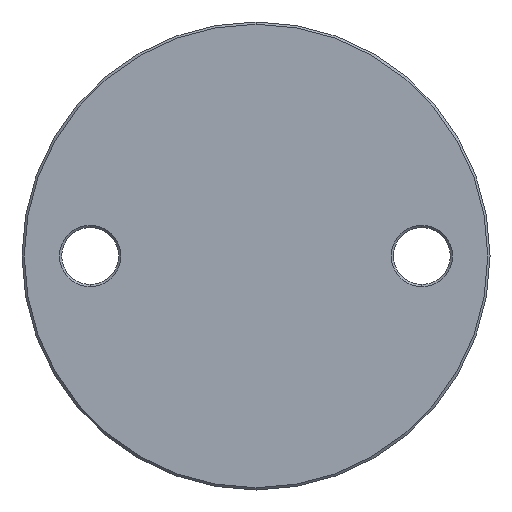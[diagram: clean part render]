
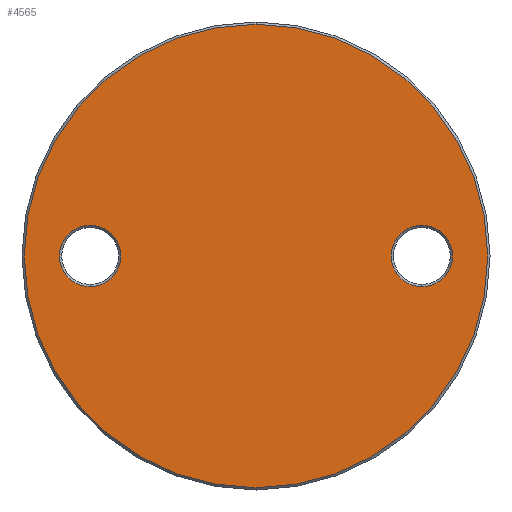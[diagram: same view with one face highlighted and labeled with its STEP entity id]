
A CAD part, front view. The second image highlights one B-rep face of the part: STEP entity #4565.
In plain terms, the highlighted planar face has unit normal (0, -1, 0).
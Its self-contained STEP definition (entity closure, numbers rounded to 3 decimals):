
#11 = ORIENTED_EDGE ( 'NONE', *, *, #5736, .T. ) ;
#99 = DIRECTION ( 'NONE',  ( 0., 1., 0. ) ) ;
#135 = CARTESIAN_POINT ( 'NONE',  ( 36.5, -3., 6.75 ) ) ;
#222 = AXIS2_PLACEMENT_3D ( 'NONE', #5063, #569, #1460 ) ;
#426 = ORIENTED_EDGE ( 'NONE', *, *, #2197, .T. ) ;
#525 = AXIS2_PLACEMENT_3D ( 'NONE', #3263, #1898, #5447 ) ;
#531 = CIRCLE ( 'NONE', #525, 51. ) ;
#569 = DIRECTION ( 'NONE',  ( 0., 1., 0. ) ) ;
#900 = FACE_OUTER_BOUND ( 'NONE', #3451, .T. ) ;
#995 = CARTESIAN_POINT ( 'NONE',  ( -36.5, -3., 6.75 ) ) ;
#1019 = CIRCLE ( 'NONE', #5498, 6.75 ) ;
#1136 = EDGE_LOOP ( 'NONE', ( #11, #2813 ) ) ;
#1186 = DIRECTION ( 'NONE',  ( 0., -1., 0. ) ) ;
#1208 = VERTEX_POINT ( 'NONE', #2894 ) ;
#1319 = CARTESIAN_POINT ( 'NONE',  ( -36.5, -3., -6.75 ) ) ;
#1350 = ORIENTED_EDGE ( 'NONE', *, *, #5835, .T. ) ;
#1460 = DIRECTION ( 'NONE',  ( 0., 0., -1. ) ) ;
#1482 = CARTESIAN_POINT ( 'NONE',  ( 36.5, -3., -6.75 ) ) ;
#1497 = VERTEX_POINT ( 'NONE', #4030 ) ;
#1597 = AXIS2_PLACEMENT_3D ( 'NONE', #2635, #3065, #4049 ) ;
#1733 = CARTESIAN_POINT ( 'NONE',  ( 36.5, -3., 0. ) ) ;
#1808 = PLANE ( 'NONE',  #1597 ) ;
#1827 = FACE_BOUND ( 'NONE', #5058, .T. ) ;
#1836 = EDGE_CURVE ( 'NONE', #1497, #1208, #5832, .T. ) ;
#1898 = DIRECTION ( 'NONE',  ( 0., -1., 0. ) ) ;
#1939 = CARTESIAN_POINT ( 'NONE',  ( -36.5, -3., 0. ) ) ;
#2012 = VERTEX_POINT ( 'NONE', #1319 ) ;
#2160 = DIRECTION ( 'NONE',  ( 0., 0., -1. ) ) ;
#2197 = EDGE_CURVE ( 'NONE', #1208, #1497, #531, .T. ) ;
#2255 = VERTEX_POINT ( 'NONE', #135 ) ;
#2342 = CARTESIAN_POINT ( 'NONE',  ( 36.5, -3., 0. ) ) ;
#2635 = CARTESIAN_POINT ( 'NONE',  ( 0., -3., 51.5 ) ) ;
#2813 = ORIENTED_EDGE ( 'NONE', *, *, #4098, .T. ) ;
#2894 = CARTESIAN_POINT ( 'NONE',  ( 0., -3., -51. ) ) ;
#2959 = CARTESIAN_POINT ( 'NONE',  ( 0., -3., 0. ) ) ;
#3065 = DIRECTION ( 'NONE',  ( 0., -1., 0. ) ) ;
#3178 = ORIENTED_EDGE ( 'NONE', *, *, #3331, .T. ) ;
#3263 = CARTESIAN_POINT ( 'NONE',  ( 0., -3., 0. ) ) ;
#3321 = AXIS2_PLACEMENT_3D ( 'NONE', #2959, #1186, #4752 ) ;
#3331 = EDGE_CURVE ( 'NONE', #3609, #2012, #1019, .T. ) ;
#3451 = EDGE_LOOP ( 'NONE', ( #5305, #426 ) ) ;
#3609 = VERTEX_POINT ( 'NONE', #995 ) ;
#3657 = DIRECTION ( 'NONE',  ( 0., 0., -1. ) ) ;
#3686 = DIRECTION ( 'NONE',  ( 0., 0., -1. ) ) ;
#3778 = VERTEX_POINT ( 'NONE', #1482 ) ;
#4030 = CARTESIAN_POINT ( 'NONE',  ( 0., -3., 51. ) ) ;
#4049 = DIRECTION ( 'NONE',  ( 0., 0., -1. ) ) ;
#4098 = EDGE_CURVE ( 'NONE', #2255, #3778, #4290, .T. ) ;
#4290 = CIRCLE ( 'NONE', #5787, 6.75 ) ;
#4565 = ADVANCED_FACE ( 'NONE', ( #5420, #1827, #900 ), #1808, .T. ) ;
#4752 = DIRECTION ( 'NONE',  ( 0., 0., -1. ) ) ;
#4887 = DIRECTION ( 'NONE',  ( 0., 1., 0. ) ) ;
#5058 = EDGE_LOOP ( 'NONE', ( #1350, #3178 ) ) ;
#5063 = CARTESIAN_POINT ( 'NONE',  ( -36.5, -3., 0. ) ) ;
#5305 = ORIENTED_EDGE ( 'NONE', *, *, #1836, .T. ) ;
#5420 = FACE_BOUND ( 'NONE', #1136, .T. ) ;
#5447 = DIRECTION ( 'NONE',  ( 0., 0., -1. ) ) ;
#5498 = AXIS2_PLACEMENT_3D ( 'NONE', #1939, #5544, #3686 ) ;
#5544 = DIRECTION ( 'NONE',  ( 0., 1., 0. ) ) ;
#5609 = AXIS2_PLACEMENT_3D ( 'NONE', #2342, #99, #3657 ) ;
#5618 = CIRCLE ( 'NONE', #222, 6.75 ) ;
#5686 = CIRCLE ( 'NONE', #5609, 6.75 ) ;
#5736 = EDGE_CURVE ( 'NONE', #3778, #2255, #5686, .T. ) ;
#5787 = AXIS2_PLACEMENT_3D ( 'NONE', #1733, #4887, #2160 ) ;
#5832 = CIRCLE ( 'NONE', #3321, 51. ) ;
#5835 = EDGE_CURVE ( 'NONE', #2012, #3609, #5618, .T. ) ;
